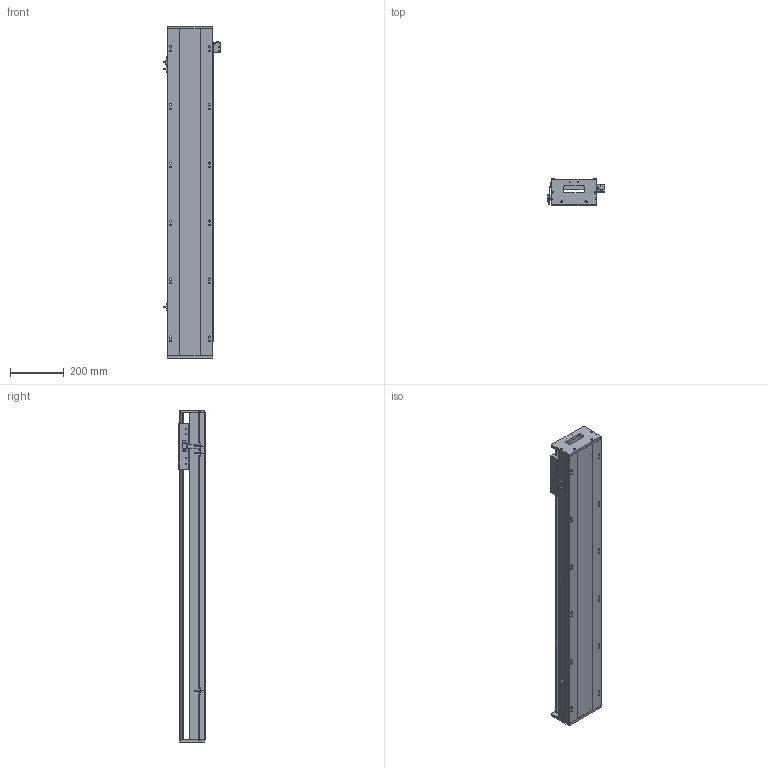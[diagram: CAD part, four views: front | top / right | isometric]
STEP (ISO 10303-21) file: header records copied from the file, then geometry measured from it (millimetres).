
FILE_DESCRIPTION (( 'STEP AP203' ), '1' );
FILE_NAME ('SKR17S-C1-S966（简）.STEP', '2022-09-29T05:18:17', ( '' ), ( '' ), 'SwSTEP 2.0', 'SolidWorks 2018', '' );
FILE_SCHEMA (( 'CONFIG_CONTROL_DESIGN' ));
Length unit declared in the file: millimetre
Products named in the file (8): SKR17菁釱-C1-S966(潠); EE-SX672; 棠掑假蚾輸; SKR17S-C1-S966（简）; SIKO棠掑; 感应片（SKR12S-14S-17S）; SKR17滑台-170L（简）; SKR17耜啣
Assembly tree (10 placements, depth 2):
  SKR17S-C1-S966（简）
    SKR17菁釱-C1-S966(潠)
    SKR17滑台-170L（简）
    SIKO棠掑
    EE-SX672  x3
    SKR17耜啣  x2
    棠掑假蚾輸
    感应片（SKR12S-14S-17S）
Bounding box: 212.7 x 97 x 1236 mm (x, y, z)
Volume: 9778558.7 mm3; surface area: 1234006.6 mm2
Topology: 11 solids, 11 shells, 1089 faces, 3006 edges, 1935 vertices
Faces by surface type: cylinder 506, plane 467, cone 116
Entity records: 32646 total; most frequent: CARTESIAN_POINT 8345, ORIENTED_EDGE 5040, DIRECTION 4744, EDGE_CURVE 2520, AXIS2_PLACEMENT_3D 1686, VERTEX_POINT 1639, LINE 1372, VECTOR 1372
